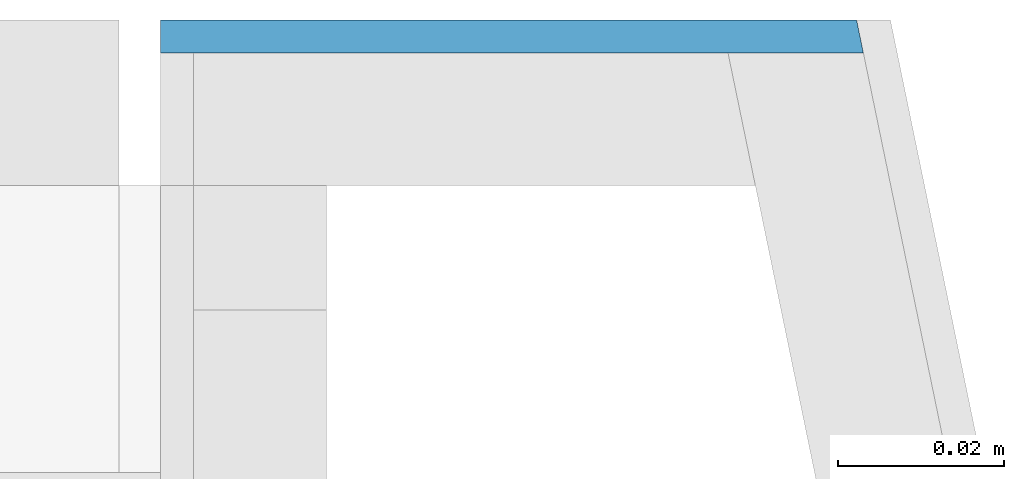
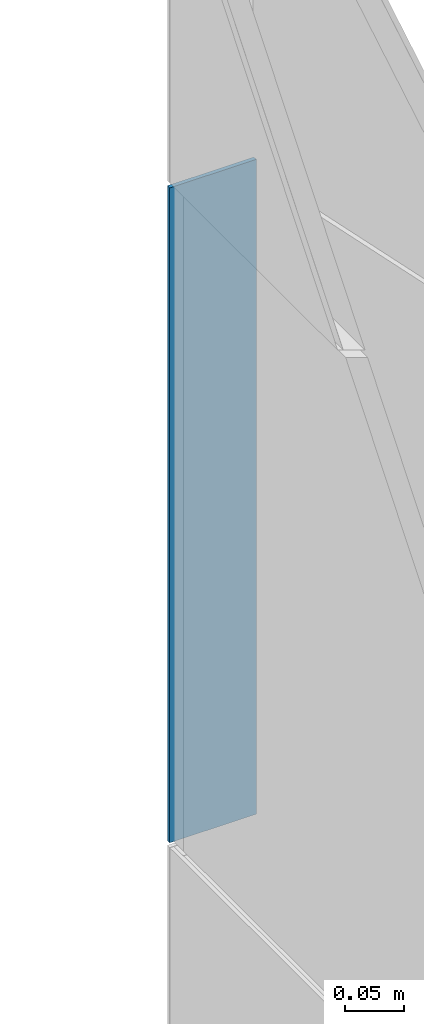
# One storey, part 39 of 125: 1 building element part, 1 element without a shape of its own.
"""IFC2X3 building model written with IfcOpenShell, lengths in millimetres."""

from ifc_helpers import new_model, entity, si_unit, converted_unit, direction, frame, origin, place, context, subcontext, project, spatial, polyline, outline, extrude, material, type_object, element, aggregate, save


model = new_model("IFC2X3")

# Units and contexts
model_context = context("Model", 3, precision=0.01, world=origin(), true_north=direction((6.123233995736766e-17, 1.0)))
plan_context = context("Plan", 3, precision=0.01, world=origin(), true_north=direction((6.123233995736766e-17, 1.0)))
body_context = subcontext(model_context, "Body", "Model", "MODEL_VIEW")
ifc_project = project(units=[si_unit("LENGTHUNIT", "METRE", prefix="MILLI"), converted_unit("PLANEANGLEUNIT", "DEGREE", entity("IfcPlaneAngleMeasure", 0.017453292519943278), si_unit("PLANEANGLEUNIT", "RADIAN"), dimensions=[0, 0, 0, 0, 0, 0, 0]), si_unit("AREAUNIT", "SQUARE_METRE")], contexts=[model_context, plan_context])

# Site, building, storey
site_placement = place(None, origin())
site = spatial("IfcSite", under=ifc_project, at=site_placement, Name="Default", CompositionType="ELEMENT")
building_placement = place(site_placement, origin())
building = spatial("IfcBuilding", under=site, at=building_placement, CompositionType="ELEMENT")
storey_placement = place(building_placement, frame((0.0, 0.0, 3125.0)))
storey = spatial("IfcBuildingStorey", under=building, at=storey_placement, Name="2K", CompositionType="ELEMENT", Elevation=3125.0)

# Wall, building element part
wall_type = type_object("IfcWallType", Name="Basic Wall:VS-komposiit", PredefinedType="STANDARD")
wall_placement = place(storey_placement, frame((8286.775755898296, 17442.0, -1010.0), z_axis=(0.0, 0.0, 1.0), x_axis=(-1.0, 0.0, 0.0)))
wall = element("IfcWall", 1, at=wall_placement, inside=storey, type_object=wall_type, Name="Basic Wall:VS-komposiit", ObjectType="Basic Wall:VS-komposiit")
ifc_material = material(Name="_K. Välisviimistlus. Alumiinium-komposiitplaat")
building_element_part_placement = place(wall_placement, origin())
building_element_part = element("IfcBuildingElementPart", 2, at=building_element_part_placement, material=ifc_material, Name="Part", context=body_context, shape_type="SweptSolid", body=[
    extrude(outline(polyline([(-2.0, -42.20013519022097), (2.0, -42.20013519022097), (2.0, 42.61260185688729), (-2.0, 41.787668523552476), (-2.0, -42.20013519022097)])), frame((29.575620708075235, -8.0, 9757.499999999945), z_axis=(0.0, 0.0, 1.0), x_axis=(0.0, 1.0, 0.0)), (0.0, 0.0, 1.0), 675.0000000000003),
])
aggregate(wall, [building_element_part])

save(model, "model.ifc")
